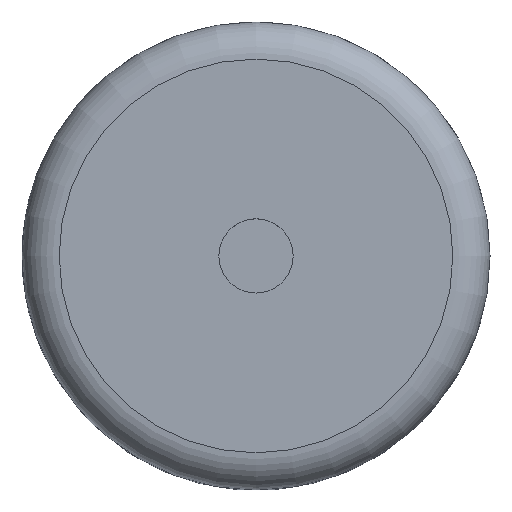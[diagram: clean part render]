
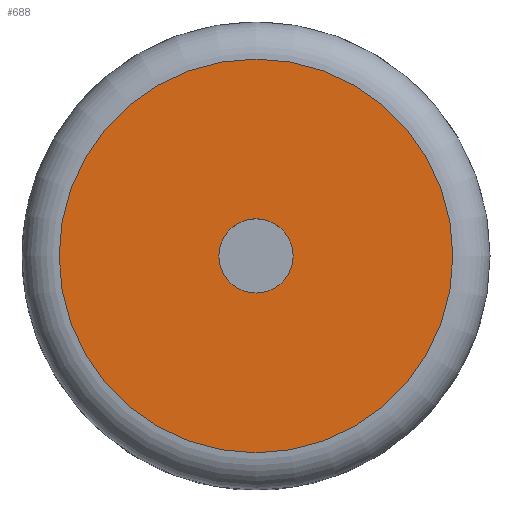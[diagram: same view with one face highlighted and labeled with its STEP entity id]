
A CAD part, top view. The second image highlights one B-rep face of the part: STEP entity #688.
In plain terms, the highlighted planar face has unit normal (0, 0, 1).
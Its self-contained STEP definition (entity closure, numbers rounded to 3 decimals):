
#22=FACE_BOUND('',#155,.T.);
#48=CIRCLE('',#757,5.3);
#50=CIRCLE('',#760,1.);
#86=PLANE('',#759);
#114=FACE_OUTER_BOUND('',#154,.T.);
#154=EDGE_LOOP('',(#562));
#155=EDGE_LOOP('',(#563));
#336=VERTEX_POINT('',#1275);
#337=VERTEX_POINT('',#1279);
#421=EDGE_CURVE('',#336,#336,#48,.T.);
#423=EDGE_CURVE('',#337,#337,#50,.T.);
#562=ORIENTED_EDGE('',*,*,#421,.F.);
#563=ORIENTED_EDGE('',*,*,#423,.T.);
#688=ADVANCED_FACE('',(#114,#22),#86,.F.);
#757=AXIS2_PLACEMENT_3D('',#1276,#900,#901);
#759=AXIS2_PLACEMENT_3D('',#1278,#904,#905);
#760=AXIS2_PLACEMENT_3D('',#1280,#906,#907);
#900=DIRECTION('center_axis',(0.,0.,-1.));
#901=DIRECTION('ref_axis',(-1.,0.,0.));
#904=DIRECTION('center_axis',(0.,0.,-1.));
#905=DIRECTION('ref_axis',(-1.,0.,0.));
#906=DIRECTION('center_axis',(0.,0.,-1.));
#907=DIRECTION('ref_axis',(-1.,0.,0.));
#1275=CARTESIAN_POINT('',(-2.8,0.,6.93));
#1276=CARTESIAN_POINT('Origin',(2.5,0.,6.93));
#1278=CARTESIAN_POINT('Origin',(2.5,0.,6.93));
#1279=CARTESIAN_POINT('',(3.5,0.,6.93));
#1280=CARTESIAN_POINT('Origin',(2.5,0.,6.93));
